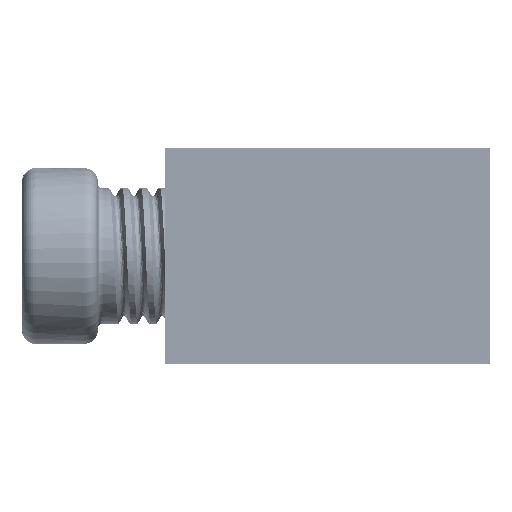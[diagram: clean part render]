
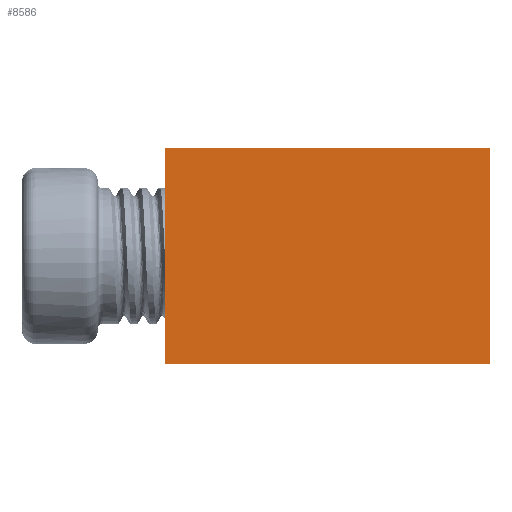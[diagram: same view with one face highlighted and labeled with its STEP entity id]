
A CAD part, left-side view. The second image highlights one B-rep face of the part: STEP entity #8586.
In plain terms, the highlighted planar face has unit normal (-1, 0, 0).
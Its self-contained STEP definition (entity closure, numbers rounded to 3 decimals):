
#55 = DIRECTION ( 'NONE',  ( 0., -1., 0. ) ) ;
#211 = LINE ( 'NONE', #5756, #2585 ) ;
#505 = ORIENTED_EDGE ( 'NONE', *, *, #7648, .F. ) ;
#714 = VERTEX_POINT ( 'NONE', #8871 ) ;
#1526 = CARTESIAN_POINT ( 'NONE',  ( 0., 0., -8. ) ) ;
#2086 = CARTESIAN_POINT ( 'NONE',  ( 0., 12., -8. ) ) ;
#2403 = EDGE_CURVE ( 'NONE', #2484, #8064, #8481, .T. ) ;
#2484 = VERTEX_POINT ( 'NONE', #6357 ) ;
#2585 = VECTOR ( 'NONE', #11112, 1000. ) ;
#2875 = EDGE_LOOP ( 'NONE', ( #7602, #505, #5686, #9387 ) ) ;
#3014 = DIRECTION ( 'NONE',  ( 0., 0., 1. ) ) ;
#4745 = VECTOR ( 'NONE', #3014, 1000. ) ;
#5152 = DIRECTION ( 'NONE',  ( -1., 0., 0. ) ) ;
#5228 = DIRECTION ( 'NONE',  ( 0., 0., 1. ) ) ;
#5250 = VECTOR ( 'NONE', #55, 1000. ) ;
#5429 = CARTESIAN_POINT ( 'NONE',  ( 0., 0., -8. ) ) ;
#5686 = ORIENTED_EDGE ( 'NONE', *, *, #2403, .T. ) ;
#5756 = CARTESIAN_POINT ( 'NONE',  ( 0., 0., 0. ) ) ;
#5870 = LINE ( 'NONE', #10609, #7974 ) ;
#6012 = CARTESIAN_POINT ( 'NONE',  ( 0., 0., -8. ) ) ;
#6357 = CARTESIAN_POINT ( 'NONE',  ( 0., 12., -8. ) ) ;
#7427 = LINE ( 'NONE', #2086, #4745 ) ;
#7602 = ORIENTED_EDGE ( 'NONE', *, *, #10506, .F. ) ;
#7648 = EDGE_CURVE ( 'NONE', #2484, #714, #7427, .T. ) ;
#7974 = VECTOR ( 'NONE', #5228, 1000. ) ;
#8064 = VERTEX_POINT ( 'NONE', #1526 ) ;
#8170 = EDGE_CURVE ( 'NONE', #8064, #10524, #5870, .T. ) ;
#8481 = LINE ( 'NONE', #5429, #5250 ) ;
#8586 = ADVANCED_FACE ( 'NONE', ( #10821 ), #10527, .T. ) ;
#8871 = CARTESIAN_POINT ( 'NONE',  ( 0., 12., 0. ) ) ;
#9387 = ORIENTED_EDGE ( 'NONE', *, *, #8170, .T. ) ;
#10268 = CARTESIAN_POINT ( 'NONE',  ( 0., 0., 0. ) ) ;
#10506 = EDGE_CURVE ( 'NONE', #714, #10524, #211, .T. ) ;
#10524 = VERTEX_POINT ( 'NONE', #10268 ) ;
#10527 = PLANE ( 'NONE',  #10635 ) ;
#10609 = CARTESIAN_POINT ( 'NONE',  ( 0., 0., -8. ) ) ;
#10635 = AXIS2_PLACEMENT_3D ( 'NONE', #6012, #5152, #11405 ) ;
#10821 = FACE_OUTER_BOUND ( 'NONE', #2875, .T. ) ;
#11112 = DIRECTION ( 'NONE',  ( 0., -1., 0. ) ) ;
#11405 = DIRECTION ( 'NONE',  ( 0., 0., 1. ) ) ;
